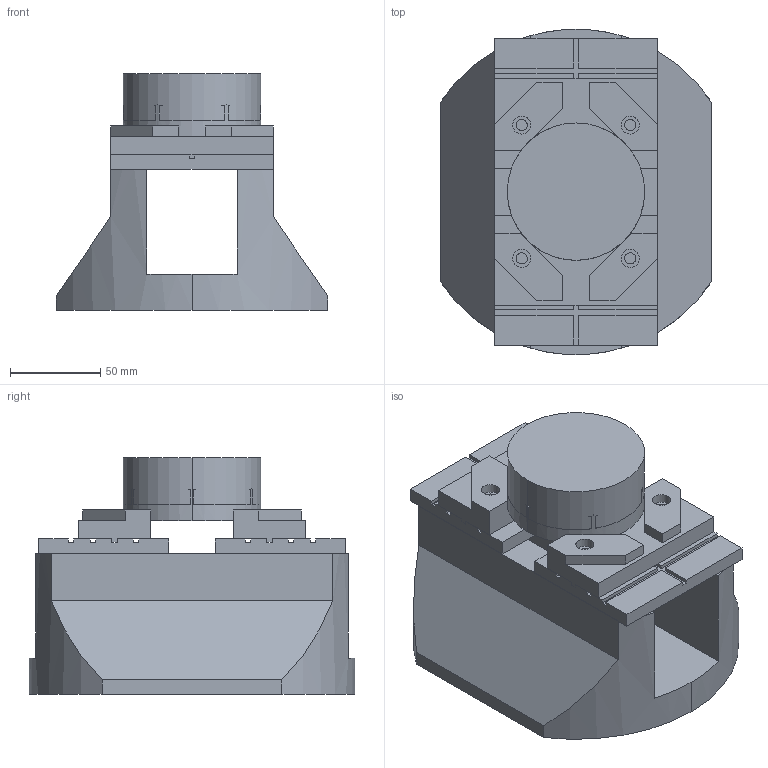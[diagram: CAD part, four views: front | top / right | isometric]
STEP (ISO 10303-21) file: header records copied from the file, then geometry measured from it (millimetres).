
FILE_DESCRIPTION(('CATIA V5 STEP Exchange'),'2;1');
FILE_NAME('D:\_Cours\2A_AM\FAO_surf\NCsimul_piece demo\demo_sur_etau.stp','2017-10-19T14:24:41+00:00',('none'),('none'),'Version 5-6 Release 2012','CATIA V5 STEP AP203','none');
FILE_SCHEMA(('CONFIG_CONTROL_DESIGN'));
Length unit declared in the file: millimetre
Products named in the file (2): etau_5axes; Demo Ass
Assembly tree (8 placements, depth 3):
  etau_5axes
    #57
    #583  x2
    #1836  x2
    Demo Ass
      #2748
      #4828
Bounding box: 150 x 180 x 130.96 mm (x, y, z)
Volume: 1359364 mm3; surface area: 189602.2 mm2
Topology: 7 solids, 7 shells, 199 faces, 578 edges, 401 vertices
Faces by surface type: plane 166, cylinder 29, sphere 4
Entity records: 4918 total; most frequent: CARTESIAN_POINT 1683, ORIENTED_EDGE 668, DIRECTION 504, EDGE_CURVE 334, VECTOR 256, LINE 256, VERTEX_POINT 222, AXIS2_PLACEMENT_3D 151
